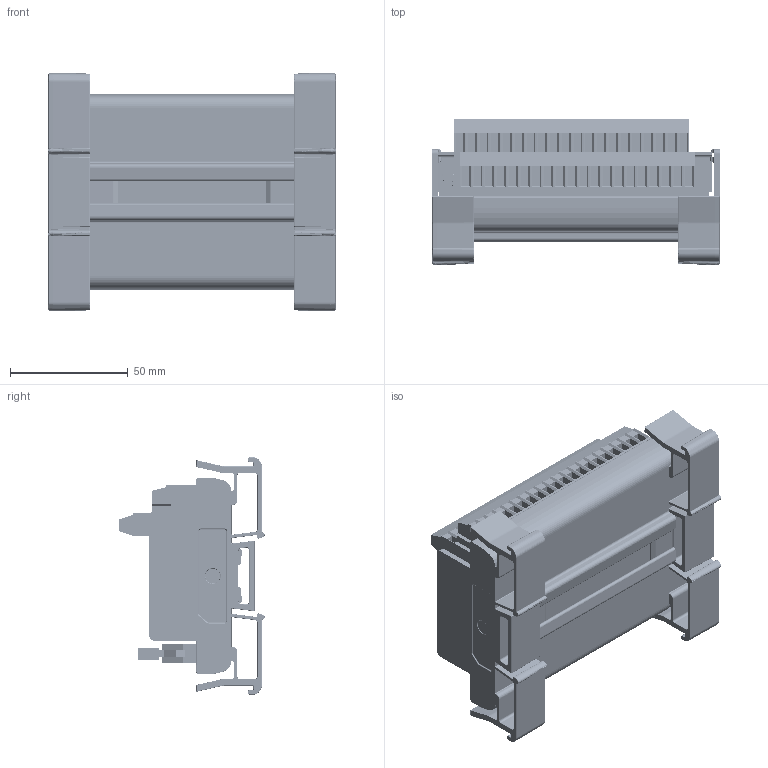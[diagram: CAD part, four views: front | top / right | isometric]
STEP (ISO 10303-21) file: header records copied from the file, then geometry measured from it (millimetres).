
FILE_DESCRIPTION((''),'2;1');
FILE_NAME('1492-IFM40F-F24-2_ASM','2019-10-03T13:04:50',('SEminovi'),('Rockwell Automation'),'CREO PARAMETRIC BY PTC INC, 2017380','CREO PARAMETRIC BY PTC INC, 2017380','');
FILE_SCHEMA(('CONFIG_CONTROL_DESIGN'));
Products named in the file (9): 41164-550-PCBOARD_; 41164-CONNECT20; 41164-TERMBLK40; 41164-25166161; 41164-550-PCASSY__ASM; 41164-123-01B; 10000984544; 90MM; 1492-IFM40F-F24-2_ASM
Assembly tree (104 placements, depth 3):
  1492-IFM40F-F24-2_ASM
    41164-550-PCASSY__ASM
      41164-550-PCBOARD_
      41164-CONNECT20
      41164-TERMBLK40
      41164-25166161  x32
    41164-123-01B
    41164-25166161  x64
    10000984544  x2
    90MM
Bounding box: 122 x 61.88 x 100.98 mm (x, y, z)
Volume: 144968.9 mm3; surface area: 147360.1 mm2
Topology: 103 solids, 107 shells, 12018 faces, 34781 edges, 22646 vertices
Faces by surface type: plane 6133, cylinder 5023, bspline 418, extrusion 384, sphere 32, cone 16, torus 12
Entity records: 64091 total; most frequent: CARTESIAN_POINT 23289, ORIENTED_EDGE 8630, DIRECTION 7926, EDGE_CURVE 4327, VECTOR 2994, LINE 2990, VERTEX_POINT 2639, AXIS2_PLACEMENT_3D 2466
